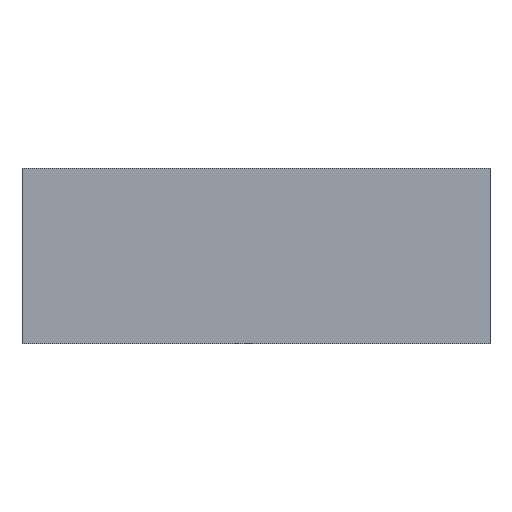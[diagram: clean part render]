
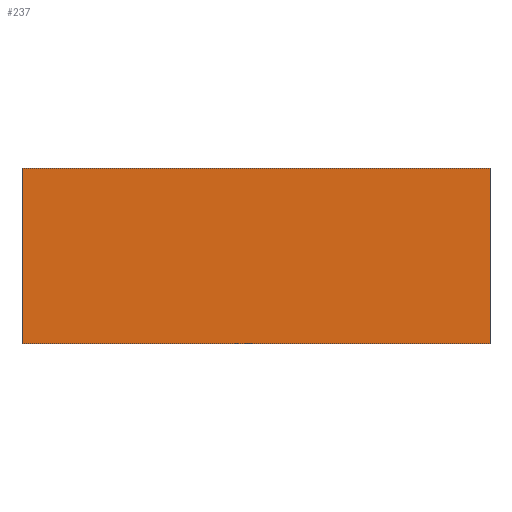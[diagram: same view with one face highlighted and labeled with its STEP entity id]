
A CAD part, front view. The second image highlights one B-rep face of the part: STEP entity #237.
In plain terms, the highlighted planar face has unit normal (0, -1, 0).
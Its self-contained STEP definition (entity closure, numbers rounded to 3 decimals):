
#21 = EDGE_CURVE('',#22,#24,#26,.T.);
#22 = VERTEX_POINT('',#23);
#23 = CARTESIAN_POINT('',(-29.9,-12.415,-13.01));
#24 = VERTEX_POINT('',#25);
#25 = CARTESIAN_POINT('',(-29.9,-12.415,-12.71));
#26 = SURFACE_CURVE('',#27,(#31,#43),.PCURVE_S1.);
#27 = LINE('',#28,#29);
#28 = CARTESIAN_POINT('',(-29.9,-12.415,-13.01));
#29 = VECTOR('',#30,1.);
#30 = DIRECTION('',(0.,0.,1.));
#31 = PCURVE('',#32,#37);
#32 = PLANE('',#33);
#33 = AXIS2_PLACEMENT_3D('',#34,#35,#36);
#34 = CARTESIAN_POINT('',(-29.9,-12.415,-13.01));
#35 = DIRECTION('',(1.,0.,-0.));
#36 = DIRECTION('',(0.,0.,1.));
#37 = DEFINITIONAL_REPRESENTATION('',(#38),#42);
#38 = LINE('',#39,#40);
#39 = CARTESIAN_POINT('',(0.,0.));
#40 = VECTOR('',#41,1.);
#41 = DIRECTION('',(1.,0.));
#42 = ( GEOMETRIC_REPRESENTATION_CONTEXT(2) 
PARAMETRIC_REPRESENTATION_CONTEXT() REPRESENTATION_CONTEXT('2D SPACE',''
  ) );
#43 = PCURVE('',#44,#49);
#44 = PLANE('',#45);
#45 = AXIS2_PLACEMENT_3D('',#46,#47,#48);
#46 = CARTESIAN_POINT('',(-29.9,-12.415,-13.01));
#47 = DIRECTION('',(-0.,1.,0.));
#48 = DIRECTION('',(0.,0.,1.));
#49 = DEFINITIONAL_REPRESENTATION('',(#50),#54);
#50 = LINE('',#51,#52);
#51 = CARTESIAN_POINT('',(0.,0.));
#52 = VECTOR('',#53,1.);
#53 = DIRECTION('',(1.,0.));
#54 = ( GEOMETRIC_REPRESENTATION_CONTEXT(2) 
PARAMETRIC_REPRESENTATION_CONTEXT() REPRESENTATION_CONTEXT('2D SPACE',''
  ) );
#72 = PLANE('',#73);
#73 = AXIS2_PLACEMENT_3D('',#74,#75,#76);
#74 = CARTESIAN_POINT('',(-29.9,-12.415,-13.01));
#75 = DIRECTION('',(0.,0.,1.));
#76 = DIRECTION('',(1.,0.,-0.));
#126 = PLANE('',#127);
#127 = AXIS2_PLACEMENT_3D('',#128,#129,#130);
#128 = CARTESIAN_POINT('',(-29.9,-12.415,-12.71));
#129 = DIRECTION('',(0.,0.,1.));
#130 = DIRECTION('',(1.,0.,-0.));
#141 = EDGE_CURVE('',#142,#144,#146,.T.);
#142 = VERTEX_POINT('',#143);
#143 = CARTESIAN_POINT('',(-29.1,-12.415,-13.01));
#144 = VERTEX_POINT('',#145);
#145 = CARTESIAN_POINT('',(-29.1,-12.415,-12.71));
#146 = SURFACE_CURVE('',#147,(#151,#163),.PCURVE_S1.);
#147 = LINE('',#148,#149);
#148 = CARTESIAN_POINT('',(-29.1,-12.415,-13.01));
#149 = VECTOR('',#150,1.);
#150 = DIRECTION('',(0.,0.,1.));
#151 = PCURVE('',#152,#157);
#152 = PLANE('',#153);
#153 = AXIS2_PLACEMENT_3D('',#154,#155,#156);
#154 = CARTESIAN_POINT('',(-29.1,-12.415,-13.01));
#155 = DIRECTION('',(1.,0.,-0.));
#156 = DIRECTION('',(0.,0.,1.));
#157 = DEFINITIONAL_REPRESENTATION('',(#158),#162);
#158 = LINE('',#159,#160);
#159 = CARTESIAN_POINT('',(0.,0.));
#160 = VECTOR('',#161,1.);
#161 = DIRECTION('',(1.,0.));
#162 = ( GEOMETRIC_REPRESENTATION_CONTEXT(2) 
PARAMETRIC_REPRESENTATION_CONTEXT() REPRESENTATION_CONTEXT('2D SPACE',''
  ) );
#163 = PCURVE('',#44,#164);
#164 = DEFINITIONAL_REPRESENTATION('',(#165),#169);
#165 = LINE('',#166,#167);
#166 = CARTESIAN_POINT('',(0.,0.8));
#167 = VECTOR('',#168,1.);
#168 = DIRECTION('',(1.,0.));
#169 = ( GEOMETRIC_REPRESENTATION_CONTEXT(2) 
PARAMETRIC_REPRESENTATION_CONTEXT() REPRESENTATION_CONTEXT('2D SPACE',''
  ) );
#237 = ADVANCED_FACE('',(#238),#44,.F.);
#238 = FACE_BOUND('',#239,.F.);
#239 = EDGE_LOOP('',(#240,#261,#262,#283));
#240 = ORIENTED_EDGE('',*,*,#241,.F.);
#241 = EDGE_CURVE('',#22,#142,#242,.T.);
#242 = SURFACE_CURVE('',#243,(#247,#254),.PCURVE_S1.);
#243 = LINE('',#244,#245);
#244 = CARTESIAN_POINT('',(-29.9,-12.415,-13.01));
#245 = VECTOR('',#246,1.);
#246 = DIRECTION('',(1.,0.,-0.));
#247 = PCURVE('',#44,#248);
#248 = DEFINITIONAL_REPRESENTATION('',(#249),#253);
#249 = LINE('',#250,#251);
#250 = CARTESIAN_POINT('',(0.,0.));
#251 = VECTOR('',#252,1.);
#252 = DIRECTION('',(0.,1.));
#253 = ( GEOMETRIC_REPRESENTATION_CONTEXT(2) 
PARAMETRIC_REPRESENTATION_CONTEXT() REPRESENTATION_CONTEXT('2D SPACE',''
  ) );
#254 = PCURVE('',#72,#255);
#255 = DEFINITIONAL_REPRESENTATION('',(#256),#260);
#256 = LINE('',#257,#258);
#257 = CARTESIAN_POINT('',(0.,0.));
#258 = VECTOR('',#259,1.);
#259 = DIRECTION('',(1.,0.));
#260 = ( GEOMETRIC_REPRESENTATION_CONTEXT(2) 
PARAMETRIC_REPRESENTATION_CONTEXT() REPRESENTATION_CONTEXT('2D SPACE',''
  ) );
#261 = ORIENTED_EDGE('',*,*,#21,.T.);
#262 = ORIENTED_EDGE('',*,*,#263,.T.);
#263 = EDGE_CURVE('',#24,#144,#264,.T.);
#264 = SURFACE_CURVE('',#265,(#269,#276),.PCURVE_S1.);
#265 = LINE('',#266,#267);
#266 = CARTESIAN_POINT('',(-29.9,-12.415,-12.71));
#267 = VECTOR('',#268,1.);
#268 = DIRECTION('',(1.,0.,-0.));
#269 = PCURVE('',#44,#270);
#270 = DEFINITIONAL_REPRESENTATION('',(#271),#275);
#271 = LINE('',#272,#273);
#272 = CARTESIAN_POINT('',(0.3,0.));
#273 = VECTOR('',#274,1.);
#274 = DIRECTION('',(0.,1.));
#275 = ( GEOMETRIC_REPRESENTATION_CONTEXT(2) 
PARAMETRIC_REPRESENTATION_CONTEXT() REPRESENTATION_CONTEXT('2D SPACE',''
  ) );
#276 = PCURVE('',#126,#277);
#277 = DEFINITIONAL_REPRESENTATION('',(#278),#282);
#278 = LINE('',#279,#280);
#279 = CARTESIAN_POINT('',(0.,0.));
#280 = VECTOR('',#281,1.);
#281 = DIRECTION('',(1.,0.));
#282 = ( GEOMETRIC_REPRESENTATION_CONTEXT(2) 
PARAMETRIC_REPRESENTATION_CONTEXT() REPRESENTATION_CONTEXT('2D SPACE',''
  ) );
#283 = ORIENTED_EDGE('',*,*,#141,.F.);
